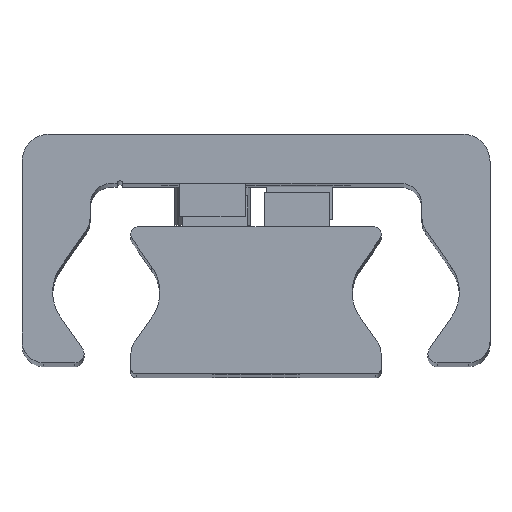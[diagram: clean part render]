
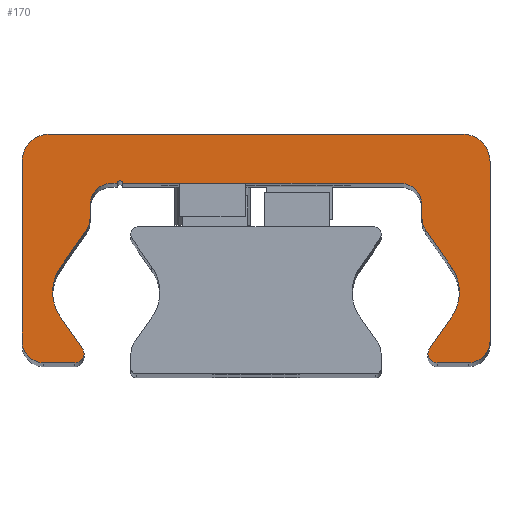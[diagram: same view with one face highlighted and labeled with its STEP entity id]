
A CAD part, top view. The second image highlights one B-rep face of the part: STEP entity #170.
In plain terms, the highlighted planar face has unit normal (0, 0, 1).
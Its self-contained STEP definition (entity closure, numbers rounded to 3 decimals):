
#170=ADVANCED_FACE('',(#400),#401,.T.);
#400=FACE_OUTER_BOUND('',#631,.T.);
#401=PLANE('',#632);
#631=EDGE_LOOP('',(#1442,#1443,#1444,#1445,#1446,#1447,#1448,#1449,#1450,#1451,#1452,#1453,#1454,#1455,#1456,#1457,#1458,#1459,#1460,#1461,#1462,#1463,#1464,#1465,#1466,#1467,#1468,#1469,#1470,#1471));
#632=AXIS2_PLACEMENT_3D('',#1472,#1473,#1474);
#1442=ORIENTED_EDGE('',*,*,#1649,.F.);
#1443=ORIENTED_EDGE('',*,*,#1782,.F.);
#1444=ORIENTED_EDGE('',*,*,#1635,.F.);
#1445=ORIENTED_EDGE('',*,*,#1781,.F.);
#1446=ORIENTED_EDGE('',*,*,#1777,.F.);
#1447=ORIENTED_EDGE('',*,*,#1774,.F.);
#1448=ORIENTED_EDGE('',*,*,#1771,.F.);
#1449=ORIENTED_EDGE('',*,*,#1768,.F.);
#1450=ORIENTED_EDGE('',*,*,#1765,.F.);
#1451=ORIENTED_EDGE('',*,*,#1762,.F.);
#1452=ORIENTED_EDGE('',*,*,#1759,.F.);
#1453=ORIENTED_EDGE('',*,*,#1756,.F.);
#1454=ORIENTED_EDGE('',*,*,#1753,.F.);
#1455=ORIENTED_EDGE('',*,*,#1750,.F.);
#1456=ORIENTED_EDGE('',*,*,#1641,.F.);
#1457=ORIENTED_EDGE('',*,*,#1748,.F.);
#1458=ORIENTED_EDGE('',*,*,#1643,.F.);
#1459=ORIENTED_EDGE('',*,*,#1747,.F.);
#1460=ORIENTED_EDGE('',*,*,#1743,.F.);
#1461=ORIENTED_EDGE('',*,*,#1740,.F.);
#1462=ORIENTED_EDGE('',*,*,#1737,.F.);
#1463=ORIENTED_EDGE('',*,*,#1734,.F.);
#1464=ORIENTED_EDGE('',*,*,#1731,.F.);
#1465=ORIENTED_EDGE('',*,*,#1728,.F.);
#1466=ORIENTED_EDGE('',*,*,#1725,.F.);
#1467=ORIENTED_EDGE('',*,*,#1722,.F.);
#1468=ORIENTED_EDGE('',*,*,#1719,.F.);
#1469=ORIENTED_EDGE('',*,*,#1716,.F.);
#1470=ORIENTED_EDGE('',*,*,#1713,.F.);
#1471=ORIENTED_EDGE('',*,*,#1710,.F.);
#1472=CARTESIAN_POINT('',(-0.023,14.187,210.0));
#1473=DIRECTION('',(0.0,0.0,1.0));
#1474=DIRECTION('',(1.0,0.0,0.0));
#1635=EDGE_CURVE('',#1990,#1993,#1994,.T.);
#1641=EDGE_CURVE('',#2003,#1999,#2005,.T.);
#1643=EDGE_CURVE('',#2006,#2009,#2010,.T.);
#1649=EDGE_CURVE('',#2019,#2015,#2021,.T.);
#1710=EDGE_CURVE('',#2015,#2120,#2121,.T.);
#1713=EDGE_CURVE('',#2120,#2125,#2126,.T.);
#1716=EDGE_CURVE('',#2125,#2130,#2131,.T.);
#1719=EDGE_CURVE('',#2130,#2135,#2136,.T.);
#1722=EDGE_CURVE('',#2135,#2140,#2141,.T.);
#1725=EDGE_CURVE('',#2140,#2145,#2146,.T.);
#1728=EDGE_CURVE('',#2145,#2150,#2151,.T.);
#1731=EDGE_CURVE('',#2150,#2155,#2156,.T.);
#1734=EDGE_CURVE('',#2155,#2160,#2161,.T.);
#1737=EDGE_CURVE('',#2160,#2165,#2166,.T.);
#1740=EDGE_CURVE('',#2165,#2170,#2171,.T.);
#1743=EDGE_CURVE('',#2170,#2175,#2176,.T.);
#1747=EDGE_CURVE('',#2175,#2006,#2181,.T.);
#1748=EDGE_CURVE('',#2009,#2003,#2182,.T.);
#1750=EDGE_CURVE('',#1999,#2184,#2185,.T.);
#1753=EDGE_CURVE('',#2184,#2189,#2190,.T.);
#1756=EDGE_CURVE('',#2189,#2194,#2195,.T.);
#1759=EDGE_CURVE('',#2194,#2199,#2200,.T.);
#1762=EDGE_CURVE('',#2199,#2204,#2205,.T.);
#1765=EDGE_CURVE('',#2204,#2209,#2210,.T.);
#1768=EDGE_CURVE('',#2209,#2214,#2215,.T.);
#1771=EDGE_CURVE('',#2214,#2219,#2220,.T.);
#1774=EDGE_CURVE('',#2219,#2224,#2225,.T.);
#1777=EDGE_CURVE('',#2224,#2229,#2230,.T.);
#1781=EDGE_CURVE('',#2229,#1990,#2235,.T.);
#1782=EDGE_CURVE('',#1993,#2019,#2236,.T.);
#1990=VERTEX_POINT('',#2522);
#1993=VERTEX_POINT('',#2526);
#1994=CIRCLE('',#2527,0.85);
#1999=VERTEX_POINT('',#2533);
#2003=VERTEX_POINT('',#2538);
#2005=CIRCLE('',#2541,0.85);
#2006=VERTEX_POINT('',#2542);
#2009=VERTEX_POINT('',#2546);
#2010=CIRCLE('',#2547,4.);
#2015=VERTEX_POINT('',#2553);
#2019=VERTEX_POINT('',#2558);
#2021=CIRCLE('',#2561,4.);
#2120=VERTEX_POINT('',#2698);
#2121=CIRCLE('',#2699,4.);
#2125=VERTEX_POINT('',#2704);
#2126=LINE('',#2705,#2706);
#2130=VERTEX_POINT('',#2712);
#2131=CIRCLE('',#2713,2.);
#2135=VERTEX_POINT('',#2718);
#2136=LINE('',#2719,#2720);
#2140=VERTEX_POINT('',#2726);
#2141=CIRCLE('',#2727,2.0);
#2145=VERTEX_POINT('',#2732);
#2146=LINE('',#2733,#2734);
#2150=VERTEX_POINT('',#2740);
#2151=CIRCLE('',#2741,0.25);
#2155=VERTEX_POINT('',#2746);
#2156=LINE('',#2747,#2748);
#2160=VERTEX_POINT('',#2754);
#2161=CIRCLE('',#2755,2.0);
#2165=VERTEX_POINT('',#2760);
#2166=LINE('',#2761,#2762);
#2170=VERTEX_POINT('',#2768);
#2171=CIRCLE('',#2769,2.0);
#2175=VERTEX_POINT('',#2774);
#2176=LINE('',#2775,#2776);
#2181=CIRCLE('',#2783,4.);
#2182=LINE('',#2784,#2785);
#2184=VERTEX_POINT('',#2788);
#2185=CIRCLE('',#2789,0.85);
#2189=VERTEX_POINT('',#2794);
#2190=LINE('',#2795,#2796);
#2194=VERTEX_POINT('',#2802);
#2195=CIRCLE('',#2803,2.);
#2199=VERTEX_POINT('',#2808);
#2200=LINE('',#2809,#2810);
#2204=VERTEX_POINT('',#2816);
#2205=CIRCLE('',#2817,2.5);
#2209=VERTEX_POINT('',#2822);
#2210=LINE('',#2823,#2824);
#2214=VERTEX_POINT('',#2830);
#2215=CIRCLE('',#2831,2.5);
#2219=VERTEX_POINT('',#2836);
#2220=LINE('',#2837,#2838);
#2224=VERTEX_POINT('',#2844);
#2225=CIRCLE('',#2845,2.);
#2229=VERTEX_POINT('',#2850);
#2230=LINE('',#2851,#2852);
#2235=CIRCLE('',#2859,0.85);
#2236=LINE('',#2860,#2861);
#2522=CARTESIAN_POINT('',(15.8,1.859,210.0));
#2526=CARTESIAN_POINT('',(15.922,2.298,210.0));
#2527=AXIS2_PLACEMENT_3D('',#3087,#3088,#3089);
#2533=CARTESIAN_POINT('',(-15.8,1.859,210.0));
#2538=CARTESIAN_POINT('',(-15.922,2.298,210.0));
#2541=AXIS2_PLACEMENT_3D('',#3099,#3100,#3101);
#2542=CARTESIAN_POINT('',(-18.688,7.509,210.0));
#2546=CARTESIAN_POINT('',(-17.964,5.214,210.0));
#2547=AXIS2_PLACEMENT_3D('',#3103,#3104,#3105);
#2553=CARTESIAN_POINT('',(18.688,7.509,210.0));
#2558=CARTESIAN_POINT('',(17.964,5.214,210.0));
#2561=AXIS2_PLACEMENT_3D('',#3115,#3116,#3117);
#2698=CARTESIAN_POINT('',(17.964,9.803,210.0));
#2699=AXIS2_PLACEMENT_3D('',#3222,#3223,#3224);
#2704=CARTESIAN_POINT('',(15.612,13.163,210.0));
#2705=CARTESIAN_POINT('',(15.612,13.163,210.0));
#2706=VECTOR('',#3229,1.0);
#2712=CARTESIAN_POINT('',(15.25,14.31,210.0));
#2713=AXIS2_PLACEMENT_3D('',#3232,#3233,#3234);
#2718=CARTESIAN_POINT('',(15.25,15.509,210.0));
#2719=CARTESIAN_POINT('',(15.25,15.509,210.0));
#2720=VECTOR('',#3239,1.0);
#2726=CARTESIAN_POINT('',(13.25,17.509,210.0));
#2727=AXIS2_PLACEMENT_3D('',#3242,#3243,#3244);
#2732=CARTESIAN_POINT('',(-12.25,17.509,210.0));
#2733=CARTESIAN_POINT('',(-12.25,17.509,210.0));
#2734=VECTOR('',#3249,1.0);
#2740=CARTESIAN_POINT('',(-12.75,17.509,210.0));
#2741=AXIS2_PLACEMENT_3D('',#3252,#3253,#3254);
#2746=CARTESIAN_POINT('',(-13.25,17.509,210.0));
#2747=CARTESIAN_POINT('',(-13.25,17.509,210.0));
#2748=VECTOR('',#3259,1.0);
#2754=CARTESIAN_POINT('',(-15.25,15.509,210.0));
#2755=AXIS2_PLACEMENT_3D('',#3262,#3263,#3264);
#2760=CARTESIAN_POINT('',(-15.25,14.31,210.0));
#2761=CARTESIAN_POINT('',(-15.25,14.31,210.0));
#2762=VECTOR('',#3269,1.0);
#2768=CARTESIAN_POINT('',(-15.612,13.163,210.0));
#2769=AXIS2_PLACEMENT_3D('',#3272,#3273,#3274);
#2774=CARTESIAN_POINT('',(-17.964,9.803,210.0));
#2775=CARTESIAN_POINT('',(-17.964,9.803,210.0));
#2776=VECTOR('',#3279,1.0);
#2783=AXIS2_PLACEMENT_3D('',#3285,#3286,#3287);
#2784=CARTESIAN_POINT('',(-15.922,2.298,210.0));
#2785=VECTOR('',#3288,1.0);
#2788=CARTESIAN_POINT('',(-16.65,1.009,210.0));
#2789=AXIS2_PLACEMENT_3D('',#3290,#3291,#3292);
#2794=CARTESIAN_POINT('',(-19.5,1.009,210.0));
#2795=CARTESIAN_POINT('',(-19.5,1.009,210.0));
#2796=VECTOR('',#3297,1.0);
#2802=CARTESIAN_POINT('',(-21.5,3.009,210.0));
#2803=AXIS2_PLACEMENT_3D('',#3300,#3301,#3302);
#2808=CARTESIAN_POINT('',(-21.5,19.509,210.0));
#2809=CARTESIAN_POINT('',(-21.5,19.509,210.0));
#2810=VECTOR('',#3307,1.0);
#2816=CARTESIAN_POINT('',(-19.0,22.009,210.0));
#2817=AXIS2_PLACEMENT_3D('',#3310,#3311,#3312);
#2822=CARTESIAN_POINT('',(19.0,22.009,210.0));
#2823=CARTESIAN_POINT('',(19.0,22.009,210.0));
#2824=VECTOR('',#3317,1.0);
#2830=CARTESIAN_POINT('',(21.5,19.509,210.0));
#2831=AXIS2_PLACEMENT_3D('',#3320,#3321,#3322);
#2836=CARTESIAN_POINT('',(21.5,3.009,210.0));
#2837=CARTESIAN_POINT('',(21.5,3.009,210.0));
#2838=VECTOR('',#3327,1.0);
#2844=CARTESIAN_POINT('',(19.5,1.009,210.0));
#2845=AXIS2_PLACEMENT_3D('',#3330,#3331,#3332);
#2850=CARTESIAN_POINT('',(16.65,1.009,210.0));
#2851=CARTESIAN_POINT('',(16.65,1.009,210.0));
#2852=VECTOR('',#3337,1.0);
#2859=AXIS2_PLACEMENT_3D('',#3343,#3344,#3345);
#2860=CARTESIAN_POINT('',(17.964,5.214,210.0));
#2861=VECTOR('',#3346,1.0);
#3087=CARTESIAN_POINT('',(16.65,1.859,210.0));
#3088=DIRECTION('',(0.0,0.0,-1.0));
#3089=DIRECTION('',(1.0,0.0,0.0));
#3099=CARTESIAN_POINT('',(-16.65,1.859,210.0));
#3100=DIRECTION('',(0.0,0.0,-1.0));
#3101=DIRECTION('',(1.0,0.0,0.0));
#3103=CARTESIAN_POINT('',(-14.688,7.509,210.0));
#3104=DIRECTION('',(0.0,0.0,1.0));
#3105=DIRECTION('',(1.0,0.0,0.0));
#3115=CARTESIAN_POINT('',(14.688,7.509,210.0));
#3116=DIRECTION('',(0.0,0.0,1.0));
#3117=DIRECTION('',(1.0,0.0,0.0));
#3222=CARTESIAN_POINT('',(14.688,7.509,210.0));
#3223=DIRECTION('',(0.0,0.0,1.0));
#3224=DIRECTION('',(1.0,0.0,0.0));
#3229=DIRECTION('',(-0.574,0.819,0.0));
#3232=CARTESIAN_POINT('',(17.25,14.31,210.0));
#3233=DIRECTION('',(0.0,0.0,-1.0));
#3234=DIRECTION('',(1.0,0.0,0.0));
#3239=DIRECTION('',(0.0,1.0,0.0));
#3242=CARTESIAN_POINT('',(13.25,15.509,210.0));
#3243=DIRECTION('',(0.0,0.0,1.0));
#3244=DIRECTION('',(1.0,0.0,0.0));
#3249=DIRECTION('',(-1.0,-0.0,-0.0));
#3252=CARTESIAN_POINT('',(-12.5,17.509,210.0));
#3253=DIRECTION('',(0.0,0.0,1.0));
#3254=DIRECTION('',(1.0,0.0,0.0));
#3259=DIRECTION('',(-1.0,-0.0,-0.0));
#3262=CARTESIAN_POINT('',(-13.25,15.509,210.0));
#3263=DIRECTION('',(0.0,0.0,1.0));
#3264=DIRECTION('',(1.0,0.0,0.0));
#3269=DIRECTION('',(-0.0,-1.0,-0.0));
#3272=CARTESIAN_POINT('',(-17.25,14.31,210.0));
#3273=DIRECTION('',(0.0,0.0,-1.0));
#3274=DIRECTION('',(1.0,0.0,0.0));
#3279=DIRECTION('',(-0.574,-0.819,-0.0));
#3285=CARTESIAN_POINT('',(-14.688,7.509,210.0));
#3286=DIRECTION('',(0.0,0.0,1.0));
#3287=DIRECTION('',(1.0,0.0,0.0));
#3288=DIRECTION('',(0.574,-0.819,0.0));
#3290=CARTESIAN_POINT('',(-16.65,1.859,210.0));
#3291=DIRECTION('',(0.0,0.0,-1.0));
#3292=DIRECTION('',(1.0,0.0,0.0));
#3297=DIRECTION('',(-1.0,-0.0,-0.0));
#3300=CARTESIAN_POINT('',(-19.5,3.009,210.0));
#3301=DIRECTION('',(0.0,0.0,-1.0));
#3302=DIRECTION('',(1.0,0.0,0.0));
#3307=DIRECTION('',(0.0,1.0,0.0));
#3310=CARTESIAN_POINT('',(-19.0,19.509,210.0));
#3311=DIRECTION('',(0.0,0.0,-1.0));
#3312=DIRECTION('',(1.0,0.0,0.0));
#3317=DIRECTION('',(1.0,0.0,0.0));
#3320=CARTESIAN_POINT('',(19.0,19.509,210.0));
#3321=DIRECTION('',(0.0,0.0,-1.0));
#3322=DIRECTION('',(1.0,0.0,0.0));
#3327=DIRECTION('',(-0.0,-1.0,-0.0));
#3330=CARTESIAN_POINT('',(19.5,3.009,210.0));
#3331=DIRECTION('',(0.0,0.0,-1.0));
#3332=DIRECTION('',(1.0,0.0,0.0));
#3337=DIRECTION('',(-1.0,-0.0,-0.0));
#3343=CARTESIAN_POINT('',(16.65,1.859,210.0));
#3344=DIRECTION('',(0.0,0.0,-1.0));
#3345=DIRECTION('',(1.0,0.0,0.0));
#3346=DIRECTION('',(0.574,0.819,0.0));
